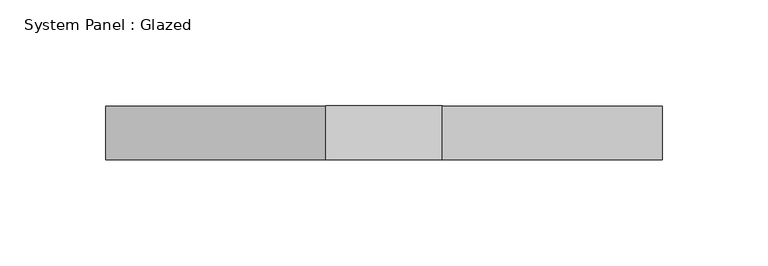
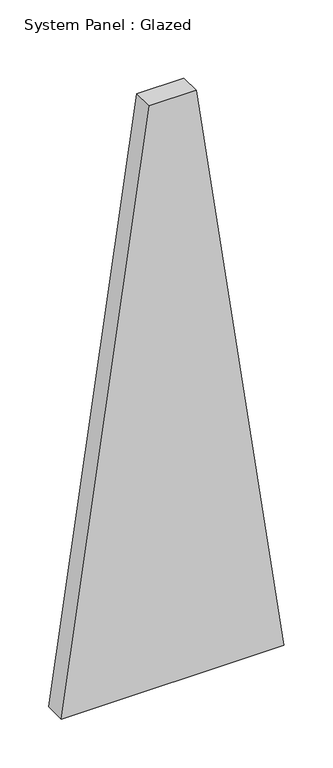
"""IFC4 building model written with IfcOpenShell, lengths in millimetres: plate geometry, System Panel : Glazed."""

from ifc_helpers import new_model, si_unit, frame, origin, place, context, project, spatial, polyline, outline, extrude, source, transform, mapped, element, save


def system_panel_glazed_d824ba65(model_context):
    return source(origin(), model_context, "Body", "SweptSolid", [
        extrude(outline(polyline([(0.0, -131.4003193), (0.0, 131.4003193), (728.9866785, 27.571564), (728.9866785, -27.571564), (0.0, -131.4003193)])), frame((0.0, -44.45, 0.0), z_axis=(0.0, 1.0, 0.0), x_axis=(0.0, 0.0, 1.0)), (0.0, 0.0, 1.0), 25.4),
    ])


if __name__ == "__main__":
    model = new_model("IFC4")
    model_context = context("Model", 3, world=origin())
    ifc_project = project(units=[si_unit("LENGTHUNIT", "METRE", prefix="MILLI")], contexts=[model_context])
    site = spatial("IfcSite", under=ifc_project)
    building = spatial("IfcBuilding", under=site)
    placement = place(None, origin())
    system_panel_glazed_shape = system_panel_glazed_d824ba65(model_context)
    element("IfcPlate", 1, ObjectType="System Panel : Glazed", at=placement, inside=building, context=model_context, shape_type="MappedRepresentation", body=[
        mapped(system_panel_glazed_shape, transform((0.0, 0.0, 0.0), x_axis=(1.0, 0.0, 0.0), y_axis=(0.0, 1.0, 0.0), z_axis=(0.0, 0.0, 1.0))),
    ])
    save(model, "model.ifc")
